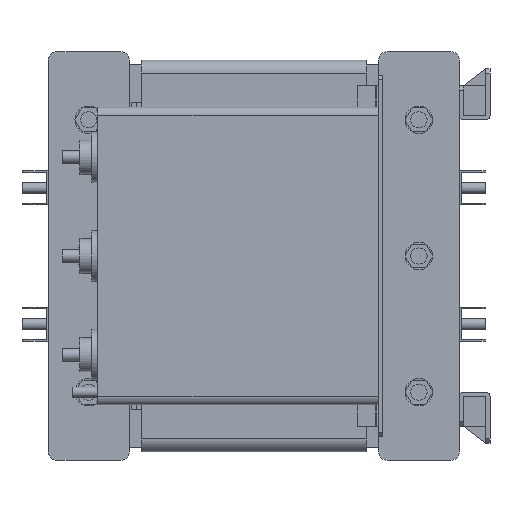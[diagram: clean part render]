
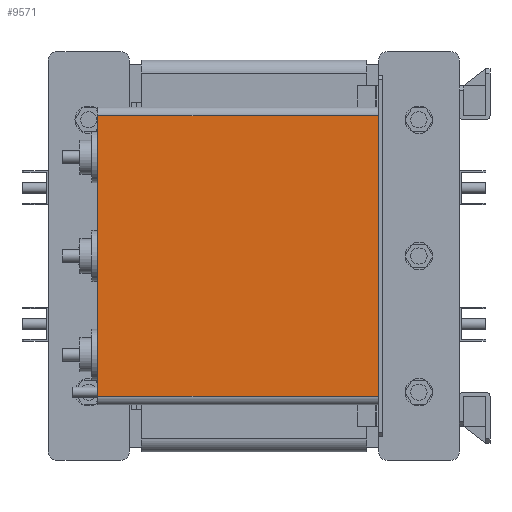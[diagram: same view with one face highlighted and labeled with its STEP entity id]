
A CAD part, left-side view. The second image highlights one B-rep face of the part: STEP entity #9571.
In plain terms, the highlighted planar face has unit normal (-1, 0, 0).
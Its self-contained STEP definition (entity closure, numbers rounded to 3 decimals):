
#1024=FACE_OUTER_BOUND('',#1651,.T.);
#1651=EDGE_LOOP('',(#8108,#8109,#8110,#8111));
#2557=LINE('',#15524,#3580);
#2596=LINE('',#15629,#3619);
#2597=LINE('',#15632,#3620);
#2598=LINE('',#15633,#3621);
#3580=VECTOR('',#12810,10.);
#3619=VECTOR('',#12911,10.);
#3620=VECTOR('',#12914,10.);
#3621=VECTOR('',#12915,10.);
#4458=VERTEX_POINT('',#15521);
#4459=VERTEX_POINT('',#15523);
#4494=VERTEX_POINT('',#15627);
#4495=VERTEX_POINT('',#15631);
#5682=EDGE_CURVE('',#4458,#4459,#2557,.T.);
#5735=EDGE_CURVE('',#4458,#4494,#2596,.T.);
#5736=EDGE_CURVE('',#4495,#4494,#2597,.T.);
#5737=EDGE_CURVE('',#4459,#4495,#2598,.T.);
#8108=ORIENTED_EDGE('',*,*,#5682,.F.);
#8109=ORIENTED_EDGE('',*,*,#5735,.T.);
#8110=ORIENTED_EDGE('',*,*,#5736,.F.);
#8111=ORIENTED_EDGE('',*,*,#5737,.F.);
#9008=PLANE('',#10467);
#9571=ADVANCED_FACE('',(#1024),#9008,.T.);
#10467=AXIS2_PLACEMENT_3D('',#15630,#12912,#12913);
#12810=DIRECTION('',(0.,0.,-1.));
#12911=DIRECTION('',(0.,1.,0.));
#12912=DIRECTION('center_axis',(-1.,0.,0.));
#12913=DIRECTION('ref_axis',(0.,0.,
1.));
#12914=DIRECTION('',(0.,0.,1.));
#12915=DIRECTION('',(0.,1.,0.));
#15521=CARTESIAN_POINT('',(-325.,-14.,165.));
#15523=CARTESIAN_POINT('',(-325.,-14.,-165.));
#15524=CARTESIAN_POINT('',(-325.,-14.,32.5));
#15627=CARTESIAN_POINT('',(-325.,316.,165.));
#15629=CARTESIAN_POINT('',(-325.,-14.,165.));
#15630=CARTESIAN_POINT('Origin',(-325.,-14.,-165.));
#15631=CARTESIAN_POINT('',(-325.,316.,-165.));
#15632=CARTESIAN_POINT('',(-325.,316.,-165.));
#15633=CARTESIAN_POINT('',(-325.,-14.,-165.));
